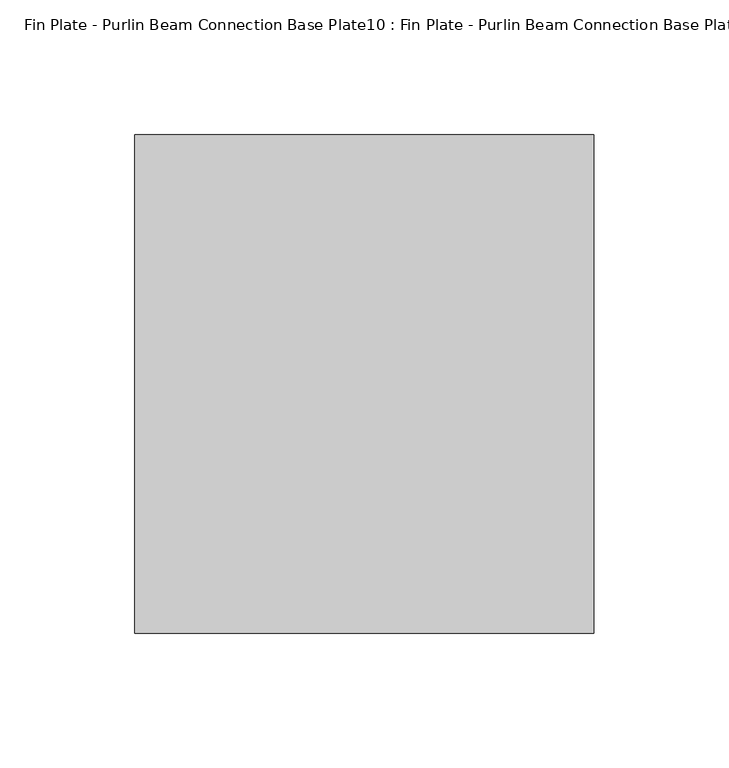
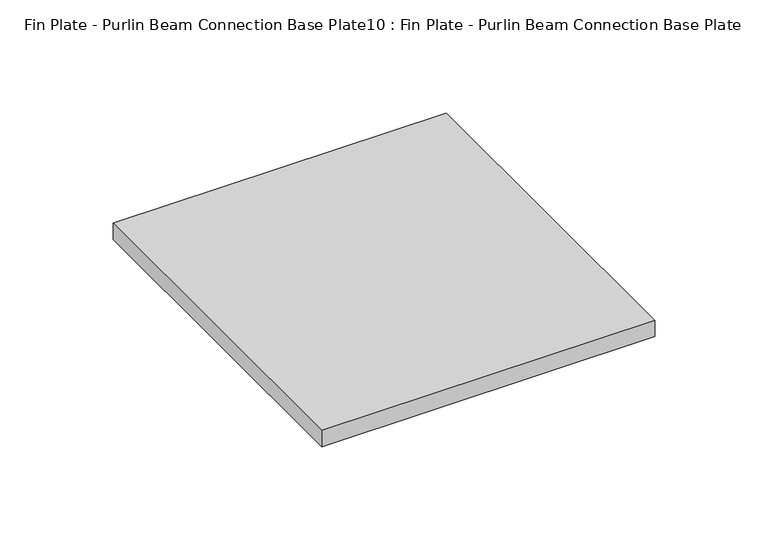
"""IFC4 building model written with IfcOpenShell, lengths in millimetres: proxy geometry, Fin Plate - Purlin Beam Connection Base Plate10 : Fin Plate - Purlin Beam Connection Base Plate."""

from ifc_helpers import new_model, si_unit, frame, origin, place, context, project, spatial, polyline, outline, extrude, source, transform, mapped, element, save


def fin_plate_purlin_beam_connection_base_plate10_fin_plate_6cf5c322(model_context):
    return source(origin(), model_context, "Body", "SweptSolid", [
        extrude(outline(polyline([(-29526.0036256, 15592.623117), (-29526.0036256, 15777.223117), (-29356.0036256, 15777.223117), (-29356.0036256, 15592.623117), (-29526.0036256, 15592.623117)])), frame((0.0, 0.0, 2418.1960911), z_axis=(0.0, 0.0, 1.0), x_axis=(1.0, 0.0, 0.0)), (0.0, 0.0, 1.0), 8.8039089),
    ])


if __name__ == "__main__":
    model = new_model("IFC4")
    model_context = context("Model", 3, world=origin())
    ifc_project = project(units=[si_unit("LENGTHUNIT", "METRE", prefix="MILLI")], contexts=[model_context])
    site = spatial("IfcSite", under=ifc_project)
    building = spatial("IfcBuilding", under=site)
    placement = place(None, origin())
    fin_plate_purlin_beam_connection_base_plate10_fin_plate_shape = fin_plate_purlin_beam_connection_base_plate10_fin_plate_6cf5c322(model_context)
    element("IfcBuildingElementProxy", 1, Name="Fin Plate - Purlin Beam Connection Base Plate10 : Fin Plate - Purlin Beam Connection Base Plate", ObjectType="Fin Plate - Purlin Beam Connection Base Plate10 : Fin Plate - Purlin Beam Connection Base Plate", at=placement, inside=building, context=model_context, shape_type="MappedRepresentation", body=[
        mapped(fin_plate_purlin_beam_connection_base_plate10_fin_plate_shape, transform((0.0, 0.0, 0.0), x_axis=(1.0, 0.0, 0.0), y_axis=(0.0, 1.0, 0.0), z_axis=(0.0, 0.0, 1.0))),
    ])
    save(model, "model.ifc")
